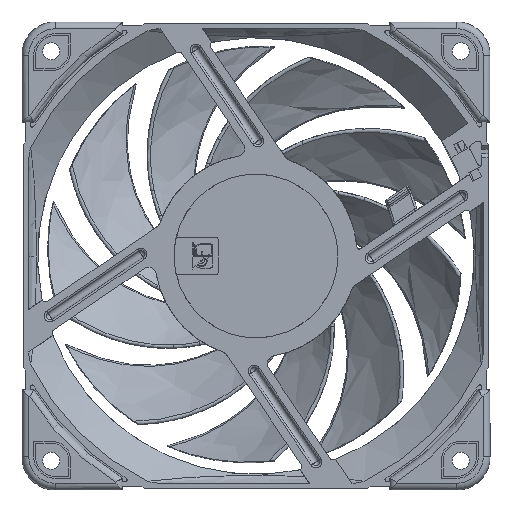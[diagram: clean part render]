
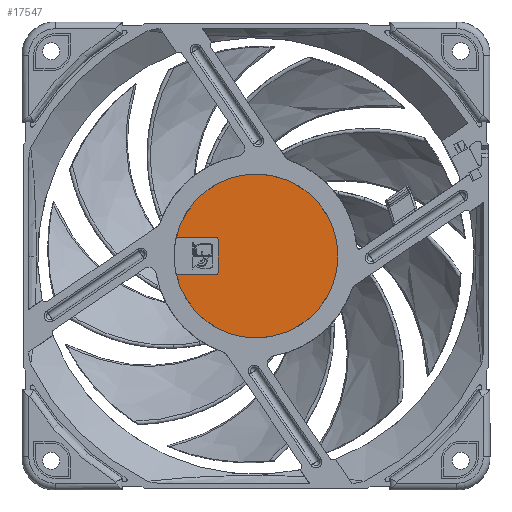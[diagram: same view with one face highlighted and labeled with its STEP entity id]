
A CAD part, front view. The second image highlights one B-rep face of the part: STEP entity #17547.
In plain terms, the highlighted planar face has unit normal (0, -1, 0) as drawn and (0, 0, 1) by its records, which use the part's own axes.
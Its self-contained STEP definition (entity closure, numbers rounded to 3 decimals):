
#1453=PLANE('',#19551);
#2484=LINE('',#46284,#3583);
#2485=LINE('',#46288,#3584);
#2486=LINE('',#46292,#3585);
#3583=VECTOR('',#23568,1000.);
#3584=VECTOR('',#23571,1000.);
#3585=VECTOR('',#23574,1000.);
#8985=ORIENTED_EDGE('',*,*,#11748,.F.);
#8986=ORIENTED_EDGE('',*,*,#11747,.F.);
#8987=ORIENTED_EDGE('',*,*,#11763,.F.);
#8988=ORIENTED_EDGE('',*,*,#11753,.T.);
#8989=ORIENTED_EDGE('',*,*,#11752,.F.);
#8990=ORIENTED_EDGE('',*,*,#11751,.F.);
#8991=ORIENTED_EDGE('',*,*,#11750,.F.);
#8992=ORIENTED_EDGE('',*,*,#11749,.F.);
#11747=EDGE_CURVE('',#13522,#13523,#14289,.T.);
#11748=EDGE_CURVE('',#13523,#13524,#2484,.T.);
#11749=EDGE_CURVE('',#13524,#13525,#14290,.T.);
#11750=EDGE_CURVE('',#13525,#13526,#2485,.T.);
#11751=EDGE_CURVE('',#13526,#13527,#14291,.T.);
#11752=EDGE_CURVE('',#13527,#13528,#2486,.T.);
#11753=EDGE_CURVE('',#13529,#13528,#14292,.T.);
#11763=EDGE_CURVE('',#13529,#13522,#14296,.T.);
#13522=VERTEX_POINT('',#46282);
#13523=VERTEX_POINT('',#46283);
#13524=VERTEX_POINT('',#46285);
#13525=VERTEX_POINT('',#46287);
#13526=VERTEX_POINT('',#46289);
#13527=VERTEX_POINT('',#46291);
#13528=VERTEX_POINT('',#46293);
#13529=VERTEX_POINT('',#46295);
#14289=CIRCLE('',#19541,0.6);
#14290=CIRCLE('',#19542,0.6);
#14291=CIRCLE('',#19543,0.6);
#14292=CIRCLE('',#19544,0.6);
#14296=CIRCLE('',#19549,21.);
#15404=EDGE_LOOP('',(#8985,#8986,#8987,#8988,#8989,#8990,#8991,#8992));
#16545=FACE_BOUND('',#15404,.T.);
#17547=ADVANCED_FACE('',(#16545),#1453,.F.);
#19541=AXIS2_PLACEMENT_3D('',#46281,#23566,#23567);
#19542=AXIS2_PLACEMENT_3D('',#46286,#23569,#23570);
#19543=AXIS2_PLACEMENT_3D('',#46290,#23572,#23573);
#19544=AXIS2_PLACEMENT_3D('',#46294,#23575,#23576);
#19549=AXIS2_PLACEMENT_3D('',#46322,#23590,#23591);
#19551=AXIS2_PLACEMENT_3D('',#46325,#23594,#23595);
#23566=DIRECTION('',(0.,0.,1.));
#23567=DIRECTION('',(1.,0.,0.));
#23568=DIRECTION('',(0.,-1.,0.));
#23569=DIRECTION('',(0.,0.,1.));
#23570=DIRECTION('',(1.,0.,0.));
#23571=DIRECTION('',(1.,0.,0.));
#23572=DIRECTION('',(0.,0.,1.));
#23573=DIRECTION('',(-1.,0.,0.));
#23574=DIRECTION('',(0.,1.,0.));
#23575=DIRECTION('',(0.,0.,-1.));
#23576=DIRECTION('',(-1.,0.,0.));
#23590=DIRECTION('',(0.,0.,-1.));
#23591=DIRECTION('',(1.,0.,0.));
#23594=DIRECTION('',(0.,0.,-1.));
#23595=DIRECTION('',(-1.,0.,0.));
#46281=CARTESIAN_POINT('',(-4.15,19.973,0.5));
#46282=CARTESIAN_POINT('',(-4.272,20.561,0.5));
#46283=CARTESIAN_POINT('',(-4.75,19.973,0.5));
#46284=CARTESIAN_POINT('',(-4.75,19.973,0.5));
#46285=CARTESIAN_POINT('',(-4.75,10.3,0.5));
#46286=CARTESIAN_POINT('',(-4.15,10.3,0.5));
#46287=CARTESIAN_POINT('',(-4.15,9.7,0.5));
#46288=CARTESIAN_POINT('',(-4.15,9.7,0.5));
#46289=CARTESIAN_POINT('',(4.15,9.7,0.5));
#46290=CARTESIAN_POINT('',(4.15,10.3,0.5));
#46291=CARTESIAN_POINT('',(4.75,10.3,0.5));
#46292=CARTESIAN_POINT('',(4.75,10.3,0.5));
#46293=CARTESIAN_POINT('',(4.75,19.973,0.5));
#46294=CARTESIAN_POINT('',(4.15,19.973,0.5));
#46295=CARTESIAN_POINT('',(4.272,20.561,0.5));
#46322=CARTESIAN_POINT('',(0.,0.,0.5));
#46325=CARTESIAN_POINT('',(0.,0.,0.5));
